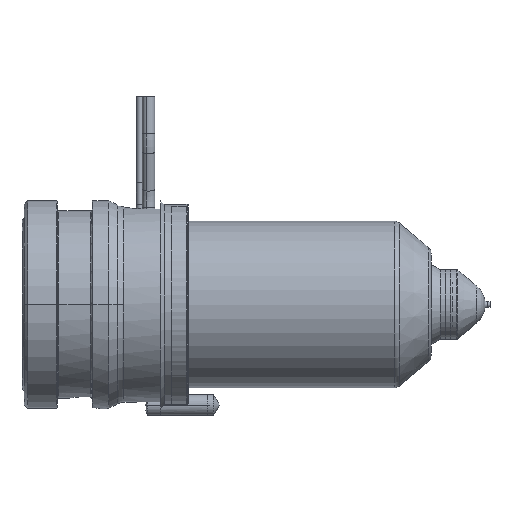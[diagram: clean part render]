
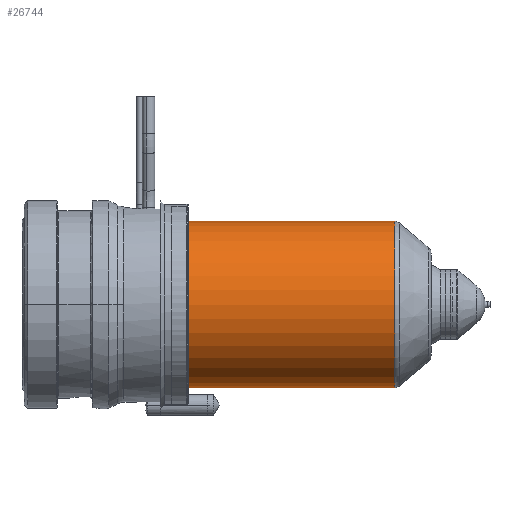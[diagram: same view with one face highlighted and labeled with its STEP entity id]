
A CAD part, left-side view. The second image highlights one B-rep face of the part: STEP entity #26744.
In plain terms, the highlighted cylindrical face has radius 12 mm (diameter 24 mm), a partial arc.
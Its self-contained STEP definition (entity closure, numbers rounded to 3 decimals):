
#26129=CARTESIAN_POINT('',(0.,-53.736,0.));
#26130=DIRECTION('',(0.,-1.,0.));
#26131=DIRECTION('',(0.,0.,1.));
#26132=AXIS2_PLACEMENT_3D('',#26129,#26130,#26131);
#26137=CARTESIAN_POINT('',(0.,-24.,0.));
#26138=DIRECTION('',(0.,1.,0.));
#26139=DIRECTION('',(0.,0.,-1.));
#26140=AXIS2_PLACEMENT_3D('',#26137,#26138,#26139);
#26145=DIRECTION('',(0.,1.,0.));
#26146=VECTOR('',#26145,29.736);
#26147=CARTESIAN_POINT('',(0.,-53.736,12.));
#26148=LINE('',#26147,#26146);
#26160=DIRECTION('',(0.,1.,0.));
#26161=VECTOR('',#26160,29.736);
#26162=CARTESIAN_POINT('',(0.,-53.736,-12.));
#26163=LINE('',#26162,#26161);
#26349=CARTESIAN_POINT('',(0.,-53.736,12.));
#26350=CARTESIAN_POINT('',(0.,-24.,12.));
#26351=VERTEX_POINT('',#26349);
#26352=VERTEX_POINT('',#26350);
#26353=CARTESIAN_POINT('',(0.,-53.736,-12.));
#26354=CARTESIAN_POINT('',(0.,-24.,-12.));
#26355=VERTEX_POINT('',#26353);
#26356=VERTEX_POINT('',#26354);
#26730=CARTESIAN_POINT('',(0.,-17.625,0.));
#26731=DIRECTION('',(0.,-1.,0.));
#26732=DIRECTION('',(0.,0.,1.));
#26733=AXIS2_PLACEMENT_3D('',#26730,#26731,#26732);
#26734=CYLINDRICAL_SURFACE('',#26733,12.);
#26736=ORIENTED_EDGE('',*,*,#26735,.F.);
#26737=ORIENTED_EDGE('',*,*,#26725,.T.);
#26739=ORIENTED_EDGE('',*,*,#26738,.T.);
#26741=ORIENTED_EDGE('',*,*,#26740,.T.);
#26742=EDGE_LOOP('',(#26736,#26737,#26739,#26741));
#26743=FACE_OUTER_BOUND('',#26742,.F.);
#26744=ADVANCED_FACE('',(#26743),#26734,.T.);
#26133=CIRCLE('',#26132,12.);
#26141=CIRCLE('',#26140,12.);
#26725=EDGE_CURVE('',#26351,#26355,#26133,.T.);
#26735=EDGE_CURVE('',#26351,#26352,#26148,.T.);
#26738=EDGE_CURVE('',#26355,#26356,#26163,.T.);
#26740=EDGE_CURVE('',#26356,#26352,#26141,.T.);
